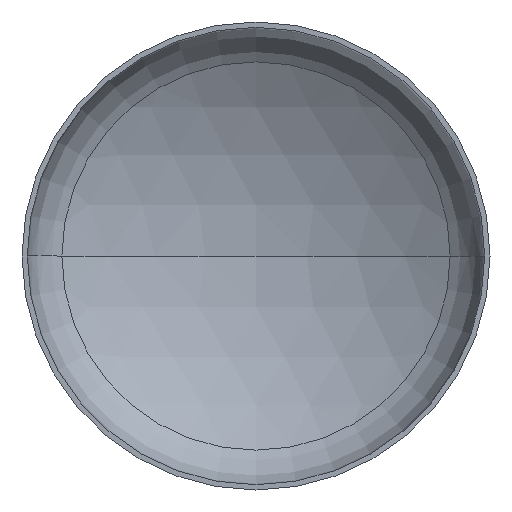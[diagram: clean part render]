
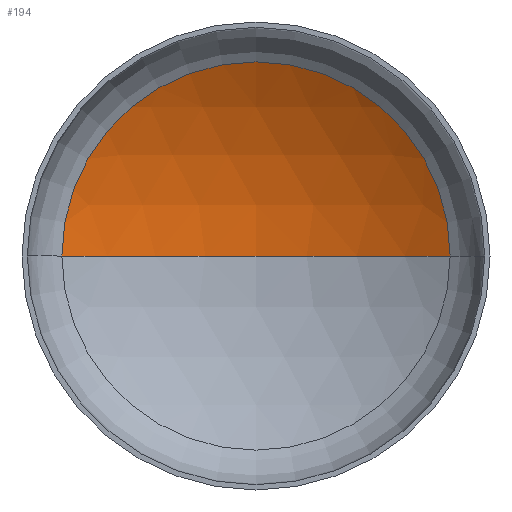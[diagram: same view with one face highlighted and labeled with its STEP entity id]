
A CAD part, front view. The second image highlights one B-rep face of the part: STEP entity #194.
In plain terms, the highlighted spherical face has radius 2400 mm.
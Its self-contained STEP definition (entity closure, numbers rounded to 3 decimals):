
#6 = AXIS2_PLACEMENT_3D ( 'NONE', #198, #411, #315 ) ;
#11 = DIRECTION ( 'NONE',  ( -1., 0., 0. ) ) ;
#16 = EDGE_LOOP ( 'NONE', ( #152, #133, #161 ) ) ;
#25 = VERTEX_POINT ( 'NONE', #251 ) ;
#47 = AXIS2_PLACEMENT_3D ( 'NONE', #216, #215, #262 ) ;
#50 = AXIS2_PLACEMENT_3D ( 'NONE', #314, #135, #11 ) ;
#53 = AXIS2_PLACEMENT_3D ( 'NONE', #190, #227, #384 ) ;
#76 = SPHERICAL_SURFACE ( 'NONE', #47, 2400. ) ;
#105 = EDGE_CURVE ( 'NONE', #25, #139, #212, .T. ) ;
#107 = EDGE_CURVE ( 'NONE', #131, #25, #265, .T. ) ;
#131 = VERTEX_POINT ( 'NONE', #202 ) ;
#133 = ORIENTED_EDGE ( 'NONE', *, *, #107, .T. ) ;
#135 = DIRECTION ( 'NONE',  ( 0., 0., -1. ) ) ;
#139 = VERTEX_POINT ( 'NONE', #248 ) ;
#152 = ORIENTED_EDGE ( 'NONE', *, *, #345, .F. ) ;
#161 = ORIENTED_EDGE ( 'NONE', *, *, #105, .T. ) ;
#190 = CARTESIAN_POINT ( 'NONE',  ( 0., 503.32, 0. ) ) ;
#194 = ADVANCED_FACE ( 'NONE', ( #312 ), #76, .F. ) ;
#198 = CARTESIAN_POINT ( 'NONE',  ( 0., -1548.784, 0. ) ) ;
#202 = CARTESIAN_POINT ( 'NONE',  ( 0., 851.216, 0. ) ) ;
#212 = CIRCLE ( 'NONE', #53, 1244.536 ) ;
#215 = DIRECTION ( 'NONE',  ( 0., 0., -1. ) ) ;
#216 = CARTESIAN_POINT ( 'NONE',  ( 0., -1548.784, 0. ) ) ;
#227 = DIRECTION ( 'NONE',  ( 0., -1., 0. ) ) ;
#248 = CARTESIAN_POINT ( 'NONE',  ( -1244.536, 503.32, 0. ) ) ;
#251 = CARTESIAN_POINT ( 'NONE',  ( 1244.536, 503.32, 0. ) ) ;
#262 = DIRECTION ( 'NONE',  ( -1., 0., 0. ) ) ;
#265 = CIRCLE ( 'NONE', #50, 2400. ) ;
#312 = FACE_OUTER_BOUND ( 'NONE', #16, .T. ) ;
#314 = CARTESIAN_POINT ( 'NONE',  ( 0., -1548.784, 0. ) ) ;
#315 = DIRECTION ( 'NONE',  ( 1., 0., 0. ) ) ;
#345 = EDGE_CURVE ( 'NONE', #131, #139, #401, .T. ) ;
#384 = DIRECTION ( 'NONE',  ( 1., 0., 0. ) ) ;
#401 = CIRCLE ( 'NONE', #6, 2400. ) ;
#411 = DIRECTION ( 'NONE',  ( 0., 0., 1. ) ) ;
